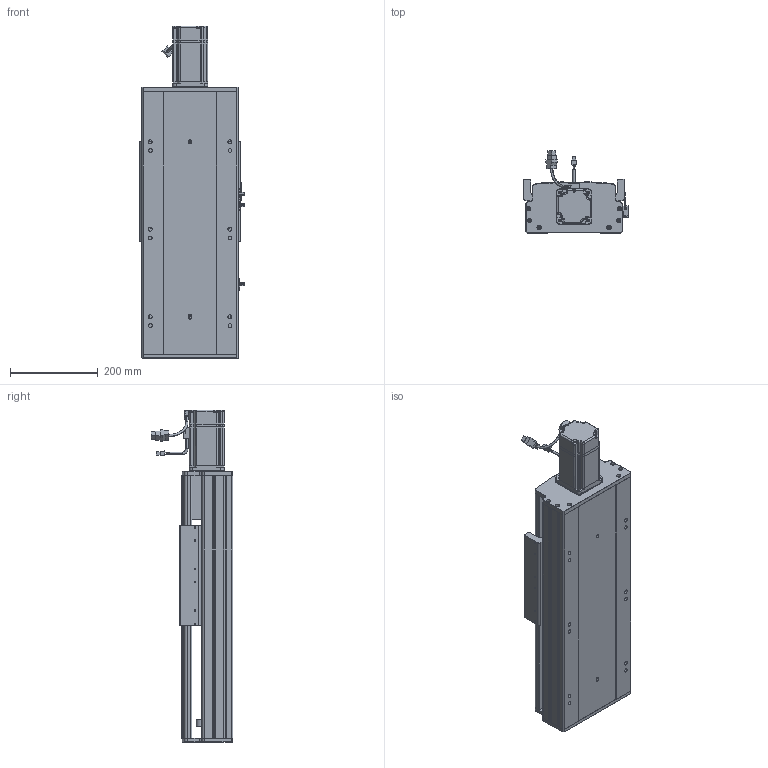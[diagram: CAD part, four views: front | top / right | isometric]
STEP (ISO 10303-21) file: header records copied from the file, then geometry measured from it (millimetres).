
FILE_DESCRIPTION (( 'STEP AP203' ), '1' );
FILE_NAME ('RY220-L2525-300-MK.SLDASM_200.step', '2022-07-04T02:57:12', ( '' ), ( '' ), 'SwSTEP 2.0', 'SolidWorks 2016', '' );
FILE_SCHEMA (( 'CONFIG_CONTROL_DESIGN' ));
Length unit declared in the file: millimetre
Products named in the file (12): RY220电机支撑座FK20（PCD90M6）; 覜茼ん672; RY220菁釱MK-300_200; RY220半封闭25-32螺母铝滑块; RY220綴裔啣; 怢湛750W_ECMA-CX0807ES; 滅袉蝶18-15; RY220-L2525-300-MK.SLDASM_200; RY220-300-奻裔啣-MK_200; RY220-俋离672覜茼んえ; 滅袉蝶18-12; RY220ヶ裔啣
Assembly tree (15 placements, depth 2):
  RY220-L2525-300-MK.SLDASM_200
    RY220菁釱MK-300_200
    RY220电机支撑座FK20（PCD90M6）
    怢湛750W_ECMA-CX0807ES
    滅袉蝶18-12  x2
    RY220ヶ裔啣
    RY220綴裔啣
    覜茼ん672  x3
    RY220半封闭25-32螺母铝滑块
    RY220-300-奻裔啣-MK_200
    RY220-俋离672覜茼んえ
    滅袉蝶18-15  x2
Bounding box: 238.7 x 187.27 x 758.3 mm (x, y, z)
Volume: 7196706.2 mm3; surface area: 1744475.8 mm2
Topology: 16 solids, 16 shells, 2054 faces, 5682 edges, 3614 vertices
Faces by surface type: plane 907, cylinder 888, cone 197, bspline 36, sphere 16, torus 10
Entity records: 67282 total; most frequent: CARTESIAN_POINT 19255, ORIENTED_EDGE 10008, DIRECTION 9331, EDGE_CURVE 5004, VERTEX_POINT 3270, AXIS2_PLACEMENT_3D 3235, VECTOR 2861, LINE 2861
